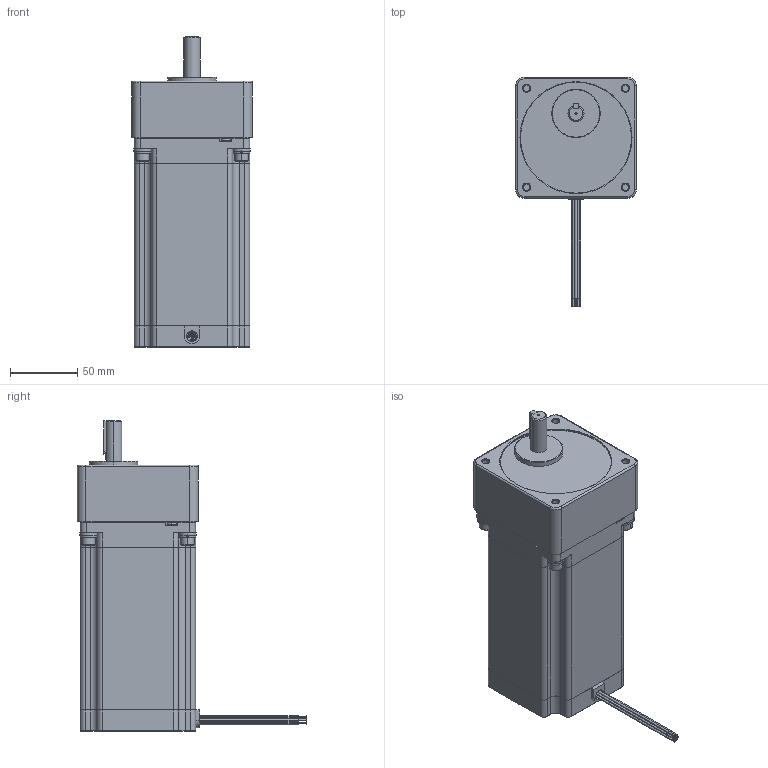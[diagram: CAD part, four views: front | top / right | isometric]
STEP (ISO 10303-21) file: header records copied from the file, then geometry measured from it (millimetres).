
FILE_DESCRIPTION (( 'STEP AP214' ), '1' );
FILE_NAME ('34YSG308S-LW8-R12.5.STEP', '2010-06-18T16:50:20', ( 'Tim Raines' ), ( 'Anaheim Automation' ), 'SwSTEP 2.0', 'SolidWorks 2010', '' );
FILE_SCHEMA (( 'AUTOMOTIVE_DESIGN' ));
Length unit declared in the file: millimetre
Products named in the file (6): 34YSG Motor_34YSG308S-LW8; Lock Washer Spring Regular_AI_Regular LW 0.25; 34SG Series_34SG1; Flat Washer Narrow_AM_B18.22M - Plain washer, 6 mm, narrow; Socket Head Cap Screw_AM_B18.3.1M - 6 x 1.0 x 20 Hex SHCS -- 20NHX; 34YSG308S-LW8-R12.5
Assembly tree (14 placements, depth 2):
  34YSG308S-LW8-R12.5
    Socket Head Cap Screw_AM_B18.3.1M - 6 x 1.0 x 20 Hex SHCS -- 20NHX  x4
    Flat Washer Narrow_AM_B18.22M - Plain washer, 6 mm, narrow  x4
    Lock Washer Spring Regular_AI_Regular LW 0.25  x4
    34SG Series_34SG1
    34YSG Motor_34YSG308S-LW8
Bounding box: 89.92 x 170.43 x 230.96 mm (x, y, z)
Volume: 1378080.8 mm3; surface area: 113887.4 mm2
Topology: 14 solids, 14 shells, 575 faces, 1363 edges, 848 vertices
Faces by surface type: plane 272, cylinder 190, cone 93, torus 20
Entity records: 18465 total; most frequent: CARTESIAN_POINT 2581, DIRECTION 2415, ORIENTED_EDGE 2214, EDGE_CURVE 1107, AXIS2_PLACEMENT_3D 895, VERTEX_POINT 701, LINE 625, VECTOR 625
